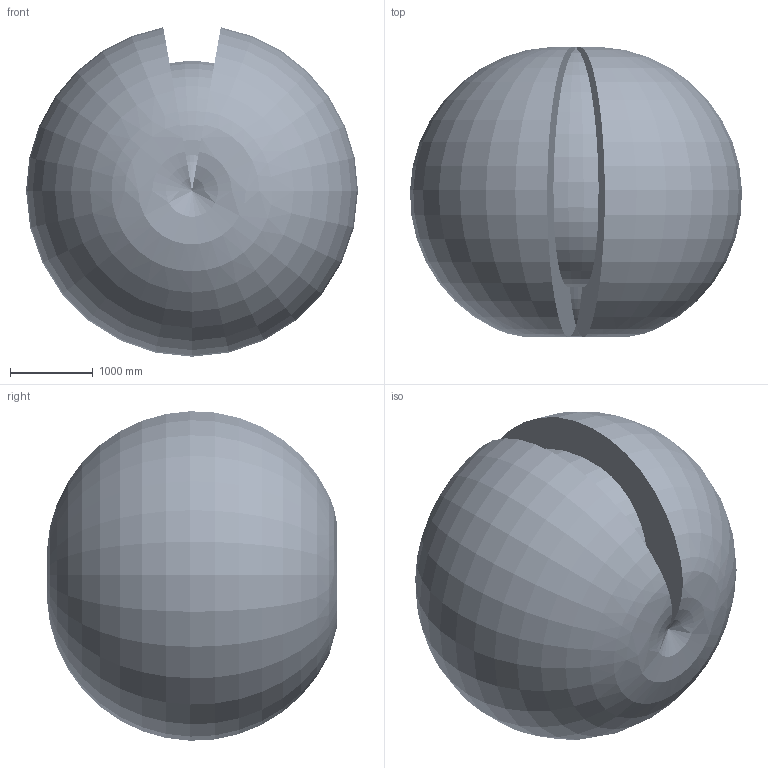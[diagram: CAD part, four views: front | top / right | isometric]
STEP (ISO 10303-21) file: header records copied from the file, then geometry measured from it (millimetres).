
FILE_DESCRIPTION (( 'STEP AP214' ), '1' );
FILE_NAME ('AIR12ARC-2000A-0000-×Ü×°.STEP', '2024-07-25T08:21:54', ( '' ), ( '' ), 'SwSTEP 2.0', 'SolidWorks 2011', '' );
FILE_SCHEMA (( 'AUTOMOTIVE_DESIGN' ));
Length unit declared in the file: millimetre
Products named in the file (9): AIR12-2000-HW-0005-4粣蚾饜; AIR12-2000-HW-0004-3粣蚾饜; AIR12-2000-HW-0003-2粣蚾饜; AIR12-2000-HW-0001-菁釱蚾饜; AIR12-2000-HW-0002-1粣蚾饜; AIR12-2000-HW-0006-5粣蚾饜; AIR12-2000-HW-0007-楊擘; AIR12ARC-2000A-0000-軞蚾; AIR12-2000-HW-2000-堍雄毓峓
Assembly tree (8 placements, depth 2):
  AIR12ARC-2000A-0000-軞蚾
    AIR12-2000-HW-0005-4粣蚾饜
    AIR12-2000-HW-0001-菁釱蚾饜
    AIR12-2000-HW-0003-2粣蚾饜
    AIR12-2000-HW-0004-3粣蚾饜
    AIR12-2000-HW-0006-5粣蚾饜
    AIR12-2000-HW-0007-楊擘
    AIR12-2000-HW-0002-1粣蚾饜
    AIR12-2000-HW-2000-堍雄毓峓
Bounding box: 4007.55 x 3504.02 x 3977.11 mm (x, y, z)
Volume: 29088410844.6 mm3; surface area: 62401061 mm2
Topology: 63 solids, 167 shells, 9914 faces, 24425 edges, 14818 vertices
Faces by surface type: plane 3289, cylinder 2884, bspline 2285, cone 1071, torus 334, sphere 51
Entity records: 482653 total; most frequent: CARTESIAN_POINT 244216, ORIENTED_EDGE 47644, DIRECTION 40062, EDGE_CURVE 23822, AXIS2_PLACEMENT_3D 15324, VERTEX_POINT 14807, EDGE_LOOP 10779, FACE_OUTER_BOUND 9913
